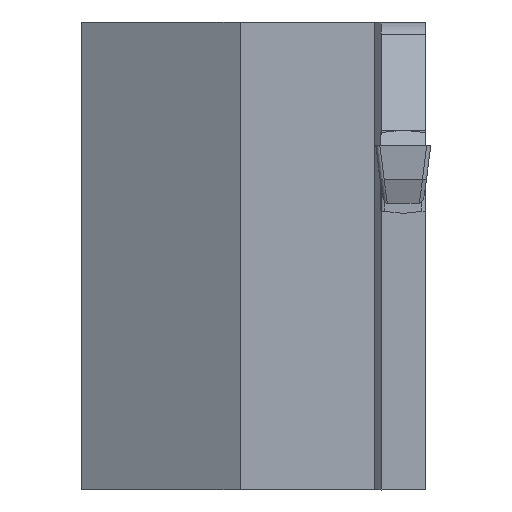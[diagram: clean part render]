
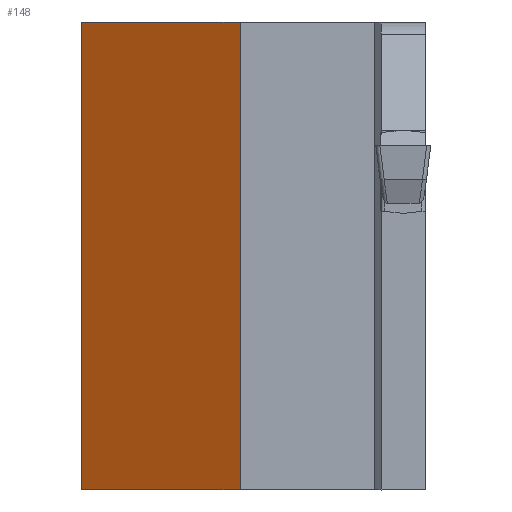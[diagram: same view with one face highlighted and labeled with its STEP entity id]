
A CAD part, left-side view. The second image highlights one B-rep face of the part: STEP entity #148.
In plain terms, the highlighted planar face has unit normal (-0.866, 0.5, 0).
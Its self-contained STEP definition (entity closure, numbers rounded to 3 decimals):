
#148=ADVANCED_FACE('',(#247),#204,.T.);
#204=PLANE('',#1138);
#247=FACE_OUTER_BOUND('',#303,.T.);
#303=EDGE_LOOP('',(#391,#392,#393,#394));
#391=ORIENTED_EDGE('',*,*,#768,.F.);
#392=ORIENTED_EDGE('',*,*,#775,.F.);
#393=ORIENTED_EDGE('',*,*,#776,.F.);
#394=ORIENTED_EDGE('',*,*,#773,.F.);
#668=VERTEX_POINT('',#1542);
#669=VERTEX_POINT('',#1544);
#672=VERTEX_POINT('',#1551);
#673=VERTEX_POINT('',#1558);
#768=EDGE_CURVE('',#668,#669,#914,.T.);
#773=EDGE_CURVE('',#669,#672,#919,.T.);
#775=EDGE_CURVE('',#673,#668,#921,.T.);
#776=EDGE_CURVE('',#672,#673,#922,.T.);
#914=LINE('',#1543,#1032);
#919=LINE('',#1553,#1037);
#921=LINE('',#1557,#1039);
#922=LINE('',#1559,#1040);
#1032=VECTOR('',#1245,1.);
#1037=VECTOR('',#1252,1.);
#1039=VECTOR('',#1258,1.);
#1040=VECTOR('',#1259,1.);
#1138=AXIS2_PLACEMENT_3D('',#1560,#1260,#1261);
#1245=DIRECTION('',(-0.5,-0.866,0.));
#1252=DIRECTION('',(0.,0.,-1.));
#1258=DIRECTION('',(0.,0.,1.));
#1259=DIRECTION('',(0.5,0.866,0.));
#1260=DIRECTION('',(-0.866,0.5,0.));
#1261=DIRECTION('',(-0.5,-0.866,0.));
#1542=CARTESIAN_POINT('',(30.277,29.166,8.979));
#1543=CARTESIAN_POINT('',(30.277,29.166,8.979));
#1544=CARTESIAN_POINT('',(23.612,17.622,8.979));
#1551=CARTESIAN_POINT('',(23.612,17.622,-25.021));
#1553=CARTESIAN_POINT('',(23.612,17.622,8.979));
#1557=CARTESIAN_POINT('',(30.277,29.166,-25.021));
#1558=CARTESIAN_POINT('',(30.277,29.166,-25.021));
#1559=CARTESIAN_POINT('',(23.612,17.622,-25.021));
#1560=CARTESIAN_POINT('',(30.277,29.166,-22.521));
